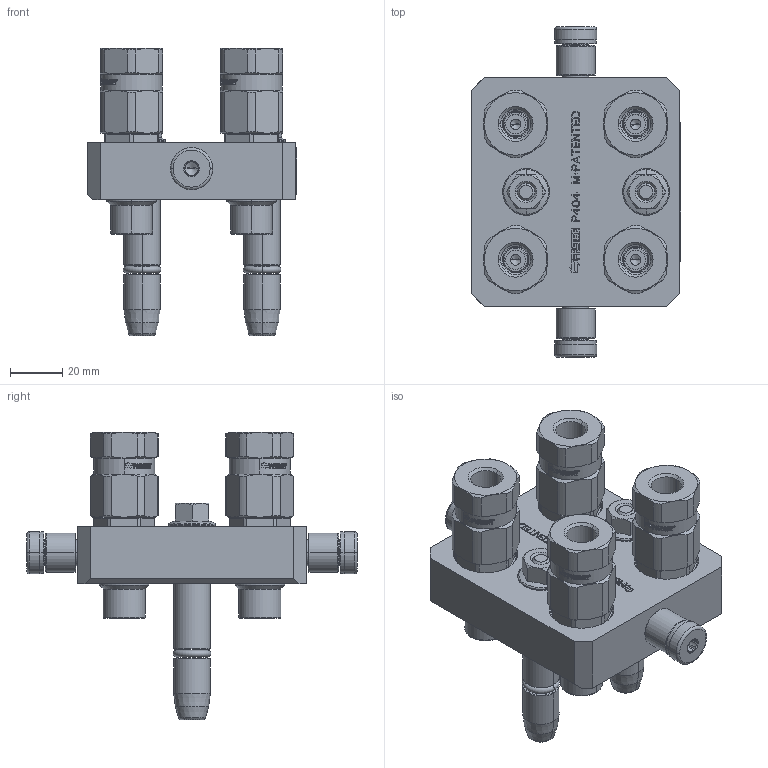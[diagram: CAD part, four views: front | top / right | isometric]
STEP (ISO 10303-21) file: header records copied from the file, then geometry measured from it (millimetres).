
FILE_DESCRIPTION((''),'2;1');
FILE_NAME('2P404-4-14G_M_C','2014-12-09T',('mchiodi'),(''),'PRO/ENGINEER BY PARAMETRIC TECHNOLOGY CORPORATION, 2013320','PRO/ENGINEER BY PARAMETRIC TECHNOLOGY CORPORATION, 2013320','');
FILE_SCHEMA(('CONFIG_CONTROL_DESIGN'));
Products named in the file (1): 2P404-4-14G_M_C
Bounding box: 80.3 x 126.6 x 110.1 mm (x, y, z)
Surface area: 73188.9 mm2 (no closed solid volume)
Topology: 0 solids, 90 shells, 1268 faces, 5548 edges, 4274 vertices
Faces by surface type: plane 575, cylinder 289, cone 282, bspline 66, torus 56
Entity records: 62231 total; most frequent: CARTESIAN_POINT 18510, DIRECTION 8608, ORIENTED_EDGE 8332, EDGE_CURVE 5528, VERTEX_POINT 4274, VECTOR 3264, LINE 3264, AXIS2_PLACEMENT_3D 2672
